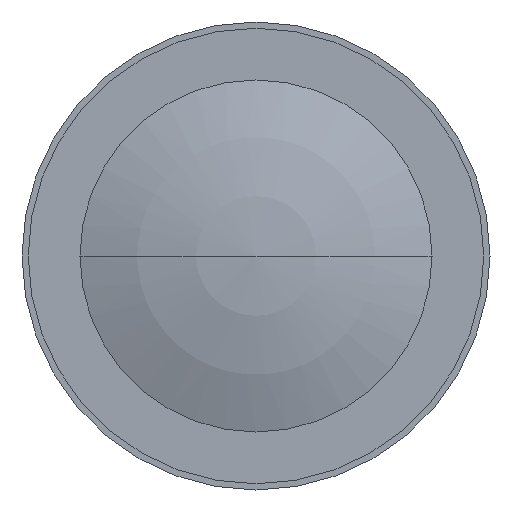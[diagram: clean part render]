
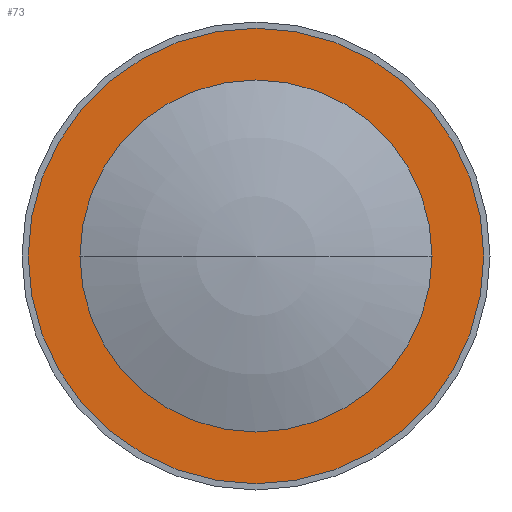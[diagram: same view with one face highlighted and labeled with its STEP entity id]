
A CAD part, left-side view. The second image highlights one B-rep face of the part: STEP entity #73.
In plain terms, the highlighted planar face has unit normal (-1, 0, 0).
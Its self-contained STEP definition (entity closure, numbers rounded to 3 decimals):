
#61=FACE_BOUND('',#116,.F.);
#65=PLANE('',#377);
#73=ADVANCED_FACE('',(#61,#94),#65,.T.);
#94=FACE_OUTER_BOUND('',#117,.F.);
#116=EDGE_LOOP('',(#152,#153));
#117=EDGE_LOOP('',(#154,#155));
#152=ORIENTED_EDGE('',*,*,#265,.T.);
#153=ORIENTED_EDGE('',*,*,#264,.T.);
#154=ORIENTED_EDGE('',*,*,#269,.F.);
#155=ORIENTED_EDGE('',*,*,#266,.F.);
#264=EDGE_CURVE('',#336,#335,#302,.T.);
#265=EDGE_CURVE('',#335,#336,#303,.T.);
#266=EDGE_CURVE('',#334,#333,#304,.T.);
#269=EDGE_CURVE('',#333,#334,#305,.T.);
#302=CIRCLE('',#355,21.25);
#303=CIRCLE('',#356,21.25);
#304=CIRCLE('',#357,27.5);
#305=CIRCLE('',#358,27.5);
#333=VERTEX_POINT('',#521);
#334=VERTEX_POINT('',#522);
#335=VERTEX_POINT('',#523);
#336=VERTEX_POINT('',#524);
#355=AXIS2_PLACEMENT_3D('',#543,#415,#416);
#356=AXIS2_PLACEMENT_3D('',#544,#417,#418);
#357=AXIS2_PLACEMENT_3D('',#545,#419,#420);
#358=AXIS2_PLACEMENT_3D('',#548,#423,#424);
#377=AXIS2_PLACEMENT_3D('',#577,#471,#472);
#415=DIRECTION('',(-1.,0.,0.));
#416=DIRECTION('',(0.,-1.,0.));
#417=DIRECTION('',(-1.,0.,0.));
#418=DIRECTION('',(0.,1.,0.));
#419=DIRECTION('',(-1.,0.,0.));
#420=DIRECTION('',(0.,1.,0.));
#423=DIRECTION('',(-1.,0.,0.));
#424=DIRECTION('',(0.,-1.,0.));
#471=DIRECTION('',(-1.,0.,0.));
#472=DIRECTION('',(0.,0.,1.));
#521=CARTESIAN_POINT('',(-111.251,-27.495,-98.622));
#522=CARTESIAN_POINT('',(-111.251,27.505,-98.622));
#523=CARTESIAN_POINT('',(-111.251,21.255,-98.622));
#524=CARTESIAN_POINT('',(-111.251,-21.245,-98.622));
#543=CARTESIAN_POINT('',(-111.251,0.005,-98.622));
#544=CARTESIAN_POINT('',(-111.251,0.005,-98.622));
#545=CARTESIAN_POINT('',(-111.251,0.005,-98.622));
#548=CARTESIAN_POINT('',(-111.251,0.005,-98.622));
#577=CARTESIAN_POINT('',(-111.251,-28.045,-126.672));
